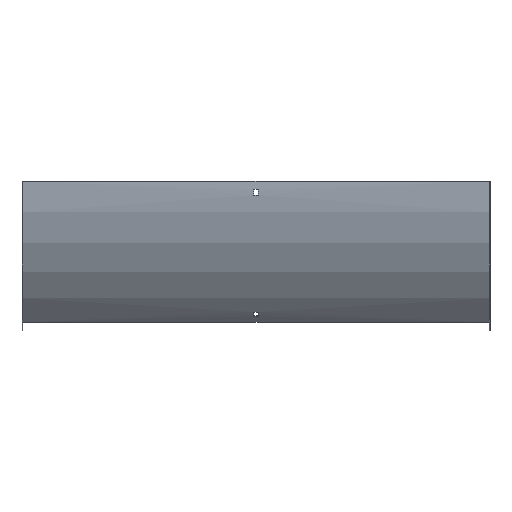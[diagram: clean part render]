
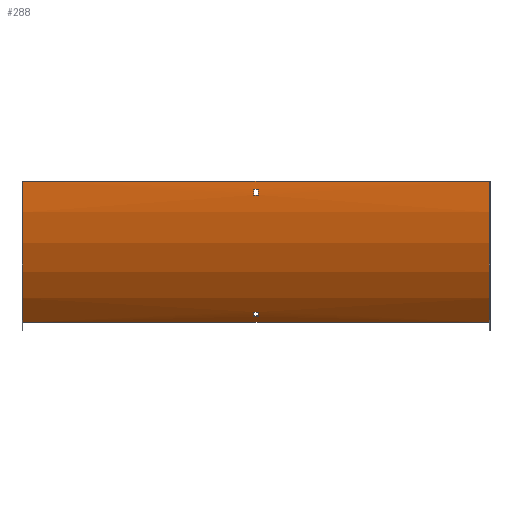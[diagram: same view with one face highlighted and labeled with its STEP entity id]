
A CAD part, front view. The second image highlights one B-rep face of the part: STEP entity #288.
In plain terms, the highlighted cylindrical face has radius 300 mm (diameter 600 mm), a partial arc.
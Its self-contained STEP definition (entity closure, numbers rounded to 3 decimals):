
#2 = EDGE_CURVE ( 'NONE', #519, #291, #34, .T. ) ;
#4 = DIRECTION ( 'NONE',  ( 0., 0., 1. ) ) ;
#5 = VERTEX_POINT ( 'NONE', #240 ) ;
#8 = VERTEX_POINT ( 'NONE', #532 ) ;
#15 = CARTESIAN_POINT ( 'NONE',  ( -3.25, 78.052, -203.477 ) ) ;
#19 = CARTESIAN_POINT ( 'NONE',  ( 3.25, 78.052, -203.477 ) ) ;
#20 = VECTOR ( 'NONE', #444, 1000. ) ;
#22 = AXIS2_PLACEMENT_3D ( 'NONE', #602, #183, #370 ) ;
#28 = LINE ( 'NONE', #397, #440 ) ;
#31 = CARTESIAN_POINT ( 'NONE',  ( -3.25, 72.039, -196.762 ) ) ;
#34 = CIRCLE ( 'NONE', #167, 300. ) ;
#37 = CARTESIAN_POINT ( 'NONE',  ( 351.5, 78.052, -203.477 ) ) ;
#41 = FACE_OUTER_BOUND ( 'NONE', #293, .T. ) ;
#42 = VERTEX_POINT ( 'NONE', #15 ) ;
#52 = VERTEX_POINT ( 'NONE', #107 ) ;
#53 = EDGE_CURVE ( 'NONE', #479, #519, #112, .T. ) ;
#56 = DIRECTION ( 'NONE',  ( 0., 0., 1. ) ) ;
#64 = EDGE_CURVE ( 'NONE', #52, #300, #294, .T. ) ;
#81 = EDGE_LOOP ( 'NONE', ( #380, #141, #262, #503 ) ) ;
#84 = EDGE_CURVE ( 'NONE', #5, #52, #416, .T. ) ;
#92 = CARTESIAN_POINT ( 'NONE',  ( 350., 86.368, -212.132 ) ) ;
#94 = AXIS2_PLACEMENT_3D ( 'NONE', #219, #402, #304 ) ;
#101 = VERTEX_POINT ( 'NONE', #387 ) ;
#102 = EDGE_LOOP ( 'NONE', ( #360, #123, #499, #561 ) ) ;
#103 = VERTEX_POINT ( 'NONE', #19 ) ;
#105 = CARTESIAN_POINT ( 'NONE',  ( 3.25, 298.5, 0. ) ) ;
#106 = CIRCLE ( 'NONE', #582, 300. ) ;
#107 = CARTESIAN_POINT ( 'NONE',  ( -3.25, -0.764, -21. ) ) ;
#112 = LINE ( 'NONE', #436, #498 ) ;
#113 = EDGE_CURVE ( 'NONE', #300, #101, #106, .T. ) ;
#115 = EDGE_CURVE ( 'NONE', #316, #103, #504, .T. ) ;
#123 = ORIENTED_EDGE ( 'NONE', *, *, #227, .T. ) ;
#125 = CARTESIAN_POINT ( 'NONE',  ( 3.25, -0.764, -21. ) ) ;
#138 = EDGE_CURVE ( 'NONE', #386, #316, #486, .T. ) ;
#141 = ORIENTED_EDGE ( 'NONE', *, *, #373, .F. ) ;
#144 = VECTOR ( 'NONE', #198, 1000. ) ;
#151 = DIRECTION ( 'NONE',  ( 0., 0., 1. ) ) ;
#156 = DIRECTION ( 'NONE',  ( -1., 0., 0. ) ) ;
#160 = CIRCLE ( 'NONE', #319, 300. ) ;
#163 = CARTESIAN_POINT ( 'NONE',  ( 3.25, 298.5, 0. ) ) ;
#167 = AXIS2_PLACEMENT_3D ( 'NONE', #427, #156, #56 ) ;
#174 = DIRECTION ( 'NONE',  ( 1., 0., 0. ) ) ;
#183 = DIRECTION ( 'NONE',  ( -1., 0., 0. ) ) ;
#198 = DIRECTION ( 'NONE',  ( 1., 0., 0. ) ) ;
#209 = LINE ( 'NONE', #456, #20 ) ;
#219 = CARTESIAN_POINT ( 'NONE',  ( -3.25, 298.5, 0. ) ) ;
#224 = FACE_BOUND ( 'NONE', #102, .T. ) ;
#225 = EDGE_CURVE ( 'NONE', #8, #291, #209, .T. ) ;
#227 = EDGE_CURVE ( 'NONE', #42, #386, #351, .T. ) ;
#240 = CARTESIAN_POINT ( 'NONE',  ( -3.25, -1.26, -12. ) ) ;
#254 = DIRECTION ( 'NONE',  ( -1., 0., 0. ) ) ;
#262 = ORIENTED_EDGE ( 'NONE', *, *, #113, .F. ) ;
#267 = DIRECTION ( 'NONE',  ( -1., 0., 0. ) ) ;
#269 = AXIS2_PLACEMENT_3D ( 'NONE', #389, #578, #151 ) ;
#288 = ADVANCED_FACE ( 'NONE', ( #459, #41, #224 ), #411, .T. ) ;
#291 = VERTEX_POINT ( 'NONE', #570 ) ;
#293 = EDGE_LOOP ( 'NONE', ( #604, #466, #372, #592 ) ) ;
#294 = LINE ( 'NONE', #297, #144 ) ;
#297 = CARTESIAN_POINT ( 'NONE',  ( 351.5, -0.764, -21. ) ) ;
#300 = VERTEX_POINT ( 'NONE', #125 ) ;
#304 = DIRECTION ( 'NONE',  ( 0., 0., -1. ) ) ;
#316 = VERTEX_POINT ( 'NONE', #410 ) ;
#319 = AXIS2_PLACEMENT_3D ( 'NONE', #548, #267, #4 ) ;
#332 = EDGE_CURVE ( 'NONE', #103, #42, #395, .T. ) ;
#349 = VECTOR ( 'NONE', #350, 1000. ) ;
#350 = DIRECTION ( 'NONE',  ( 1., 0., 0. ) ) ;
#351 = CIRCLE ( 'NONE', #94, 300. ) ;
#360 = ORIENTED_EDGE ( 'NONE', *, *, #332, .T. ) ;
#370 = DIRECTION ( 'NONE',  ( 0., 0., 1. ) ) ;
#372 = ORIENTED_EDGE ( 'NONE', *, *, #529, .T. ) ;
#373 = EDGE_CURVE ( 'NONE', #101, #5, #28, .T. ) ;
#380 = ORIENTED_EDGE ( 'NONE', *, *, #84, .F. ) ;
#386 = VERTEX_POINT ( 'NONE', #31 ) ;
#387 = CARTESIAN_POINT ( 'NONE',  ( 3.25, -1.26, -12. ) ) ;
#389 = CARTESIAN_POINT ( 'NONE',  ( -3.25, 298.5, 0. ) ) ;
#390 = DIRECTION ( 'NONE',  ( -1., 0., 0. ) ) ;
#392 = DIRECTION ( 'NONE',  ( 0., 0., -1. ) ) ;
#393 = AXIS2_PLACEMENT_3D ( 'NONE', #163, #174, #598 ) ;
#395 = LINE ( 'NONE', #37, #484 ) ;
#397 = CARTESIAN_POINT ( 'NONE',  ( 351.5, -1.26, -12. ) ) ;
#402 = DIRECTION ( 'NONE',  ( -1., 0., 0. ) ) ;
#410 = CARTESIAN_POINT ( 'NONE',  ( 3.25, 72.039, -196.762 ) ) ;
#411 = CYLINDRICAL_SURFACE ( 'NONE', #22, 300. ) ;
#416 = CIRCLE ( 'NONE', #269, 300. ) ;
#427 = CARTESIAN_POINT ( 'NONE',  ( -350., 298.5, 0. ) ) ;
#436 = CARTESIAN_POINT ( 'NONE',  ( 350., 86.368, -212.132 ) ) ;
#440 = VECTOR ( 'NONE', #587, 1000. ) ;
#444 = DIRECTION ( 'NONE',  ( -1., 0., 0. ) ) ;
#448 = CARTESIAN_POINT ( 'NONE',  ( 351.5, 72.039, -196.762 ) ) ;
#456 = CARTESIAN_POINT ( 'NONE',  ( 350., -1.5, 0. ) ) ;
#459 = FACE_BOUND ( 'NONE', #81, .T. ) ;
#466 = ORIENTED_EDGE ( 'NONE', *, *, #53, .F. ) ;
#479 = VERTEX_POINT ( 'NONE', #92 ) ;
#484 = VECTOR ( 'NONE', #584, 1000. ) ;
#486 = LINE ( 'NONE', #448, #349 ) ;
#498 = VECTOR ( 'NONE', #390, 1000. ) ;
#499 = ORIENTED_EDGE ( 'NONE', *, *, #138, .T. ) ;
#502 = CARTESIAN_POINT ( 'NONE',  ( -350., 86.368, -212.132 ) ) ;
#503 = ORIENTED_EDGE ( 'NONE', *, *, #64, .F. ) ;
#504 = CIRCLE ( 'NONE', #393, 300. ) ;
#519 = VERTEX_POINT ( 'NONE', #502 ) ;
#529 = EDGE_CURVE ( 'NONE', #479, #8, #160, .T. ) ;
#532 = CARTESIAN_POINT ( 'NONE',  ( 350., -1.5, 0. ) ) ;
#548 = CARTESIAN_POINT ( 'NONE',  ( 350., 298.5, 0. ) ) ;
#561 = ORIENTED_EDGE ( 'NONE', *, *, #115, .T. ) ;
#570 = CARTESIAN_POINT ( 'NONE',  ( -350., -1.5, 0. ) ) ;
#578 = DIRECTION ( 'NONE',  ( 1., 0., 0. ) ) ;
#582 = AXIS2_PLACEMENT_3D ( 'NONE', #105, #254, #392 ) ;
#584 = DIRECTION ( 'NONE',  ( -1., 0., 0. ) ) ;
#587 = DIRECTION ( 'NONE',  ( -1., 0., 0. ) ) ;
#592 = ORIENTED_EDGE ( 'NONE', *, *, #225, .T. ) ;
#598 = DIRECTION ( 'NONE',  ( 0., 0., 1. ) ) ;
#602 = CARTESIAN_POINT ( 'NONE',  ( 351.5, 298.5, 0. ) ) ;
#604 = ORIENTED_EDGE ( 'NONE', *, *, #2, .F. ) ;
